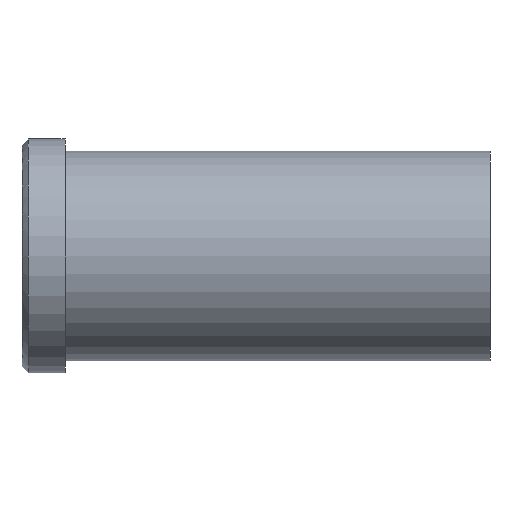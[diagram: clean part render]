
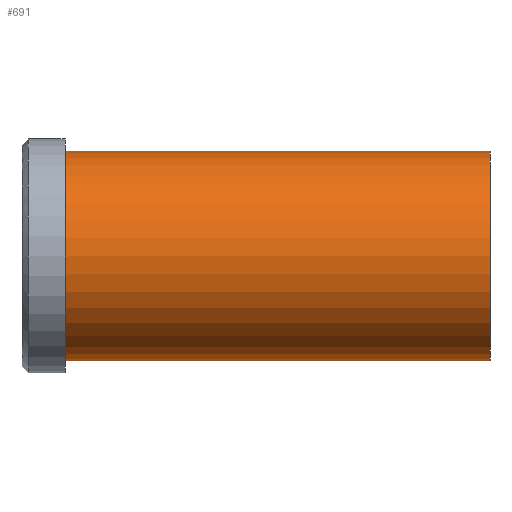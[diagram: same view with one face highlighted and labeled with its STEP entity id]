
A CAD part, front view. The second image highlights one B-rep face of the part: STEP entity #691.
In plain terms, the highlighted cylindrical face has radius 17 mm (diameter 34 mm), a partial arc.
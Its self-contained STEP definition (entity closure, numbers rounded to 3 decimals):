
#501=CARTESIAN_POINT('Vertex',(0.,0.,-17.)) ;
#506=CARTESIAN_POINT('Axis2P3D Location',(0.,0.,0.)) ;
#510=CARTESIAN_POINT('Vertex',(0.,-17.,0.)) ;
#513=CARTESIAN_POINT('Axis2P3D Location',(0.,0.,0.)) ;
#517=CARTESIAN_POINT('Vertex',(0.,0.,17.)) ;
#631=CARTESIAN_POINT('Line Origine',(69.,0.,17.)) ;
#635=CARTESIAN_POINT('Vertex',(69.,0.,17.)) ;
#649=CARTESIAN_POINT('Vertex',(69.,0.,-17.)) ;
#652=CARTESIAN_POINT('Line Origine',(69.,0.,-17.)) ;
#666=CARTESIAN_POINT('Axis2P3D Location',(69.,0.,0.)) ;
#671=CARTESIAN_POINT('Axis2P3D Location',(69.,0.,0.)) ;
#675=CARTESIAN_POINT('Vertex',(69.,-17.,0.)) ;
#678=CARTESIAN_POINT('Axis2P3D Location',(69.,0.,0.)) ;
#507=DIRECTION('Axis2P3D Direction',(1.,0.,-0.)) ;
#514=DIRECTION('Axis2P3D Direction',(1.,0.,-0.)) ;
#632=DIRECTION('Vector Direction',(-1.,0.,0.)) ;
#653=DIRECTION('Vector Direction',(-1.,0.,0.)) ;
#667=DIRECTION('Axis2P3D Direction',(-1.,-0.,-0.)) ;
#668=DIRECTION('Axis2P3D XDirection',(0.,0.,-1.)) ;
#672=DIRECTION('Axis2P3D Direction',(-1.,-0.,-0.)) ;
#679=DIRECTION('Axis2P3D Direction',(-1.,-0.,-0.)) ;
#508=AXIS2_PLACEMENT_3D('Circle Axis2P3D',#506,#507,$) ;
#515=AXIS2_PLACEMENT_3D('Circle Axis2P3D',#513,#514,$) ;
#669=AXIS2_PLACEMENT_3D('Cylinder Axis2P3D',#666,#667,#668) ;
#673=AXIS2_PLACEMENT_3D('Circle Axis2P3D',#671,#672,$) ;
#680=AXIS2_PLACEMENT_3D('Circle Axis2P3D',#678,#679,$) ;
#684=ORIENTED_EDGE('',*,*,#656,.T.) ;
#685=ORIENTED_EDGE('',*,*,#677,.F.) ;
#686=ORIENTED_EDGE('',*,*,#682,.F.) ;
#687=ORIENTED_EDGE('',*,*,#637,.T.) ;
#688=ORIENTED_EDGE('',*,*,#519,.T.) ;
#689=ORIENTED_EDGE('',*,*,#512,.T.) ;
#633=VECTOR('Line Direction',#632,1.) ;
#654=VECTOR('Line Direction',#653,1.) ;
#691=ADVANCED_FACE('353-25X76',(#690),#670,.T.) ;
#509=CIRCLE('generated circle',#508,17.) ;
#516=CIRCLE('generated circle',#515,17.) ;
#674=CIRCLE('generated circle',#673,17.) ;
#681=CIRCLE('generated circle',#680,17.) ;
#670=CYLINDRICAL_SURFACE('generated cylinder',#669,17.) ;
#512=EDGE_CURVE('',#511,#502,#509,.T.) ;
#519=EDGE_CURVE('',#518,#511,#516,.T.) ;
#637=EDGE_CURVE('',#636,#518,#634,.T.) ;
#656=EDGE_CURVE('',#502,#650,#655,.F.) ;
#677=EDGE_CURVE('',#676,#650,#674,.F.) ;
#682=EDGE_CURVE('',#636,#676,#681,.F.) ;
#683=EDGE_LOOP('',(#684,#685,#686,#687,#688,#689)) ;
#690=FACE_OUTER_BOUND('',#683,.T.) ;
#634=LINE('Line',#631,#633) ;
#655=LINE('Line',#652,#654) ;
#502=VERTEX_POINT('',#501) ;
#511=VERTEX_POINT('',#510) ;
#518=VERTEX_POINT('',#517) ;
#636=VERTEX_POINT('',#635) ;
#650=VERTEX_POINT('',#649) ;
#676=VERTEX_POINT('',#675) ;
